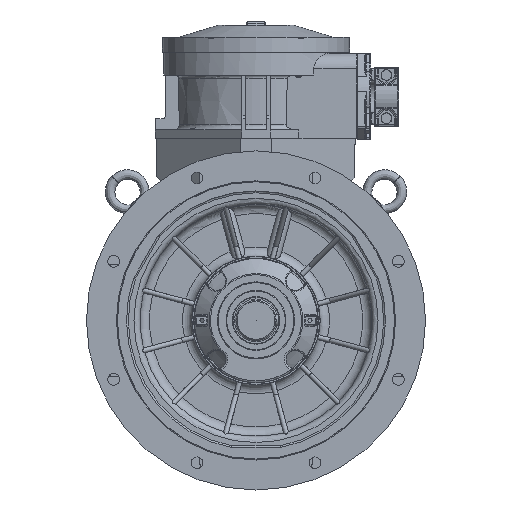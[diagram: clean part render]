
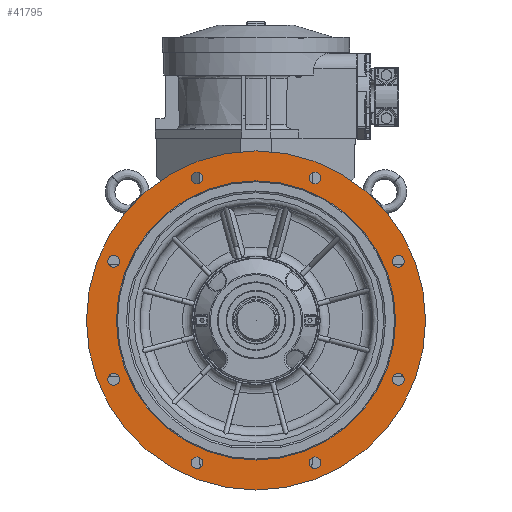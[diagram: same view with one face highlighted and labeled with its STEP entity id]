
A CAD part, left-side view. The second image highlights one B-rep face of the part: STEP entity #41795.
In plain terms, the highlighted planar face has unit normal (-1, 0, 0).
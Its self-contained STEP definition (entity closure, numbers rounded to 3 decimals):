
#1120=PLANE('',#44513);
#13565=ORIENTED_EDGE('',*,*,#18961,.F.);
#13566=ORIENTED_EDGE('',*,*,#18963,.F.);
#13567=ORIENTED_EDGE('',*,*,#18965,.F.);
#13568=ORIENTED_EDGE('',*,*,#18967,.F.);
#13569=ORIENTED_EDGE('',*,*,#18969,.F.);
#13570=ORIENTED_EDGE('',*,*,#18971,.F.);
#13571=ORIENTED_EDGE('',*,*,#18973,.F.);
#13572=ORIENTED_EDGE('',*,*,#18975,.F.);
#13573=ORIENTED_EDGE('',*,*,#18992,.T.);
#13574=ORIENTED_EDGE('',*,*,#18993,.F.);
#18961=EDGE_CURVE('',#22119,#22119,#23659,.T.);
#18963=EDGE_CURVE('',#22121,#22121,#23661,.T.);
#18965=EDGE_CURVE('',#22123,#22123,#23663,.T.);
#18967=EDGE_CURVE('',#22125,#22125,#23665,.T.);
#18969=EDGE_CURVE('',#22127,#22127,#23667,.T.);
#18971=EDGE_CURVE('',#22129,#22129,#23669,.T.);
#18973=EDGE_CURVE('',#22131,#22131,#23671,.T.);
#18975=EDGE_CURVE('',#22133,#22133,#23673,.T.);
#18992=EDGE_CURVE('',#22150,#22150,#23687,.T.);
#18993=EDGE_CURVE('',#22151,#22151,#23688,.F.);
#22119=VERTEX_POINT('',#65462);
#22121=VERTEX_POINT('',#65467);
#22123=VERTEX_POINT('',#65472);
#22125=VERTEX_POINT('',#65477);
#22127=VERTEX_POINT('',#65482);
#22129=VERTEX_POINT('',#65487);
#22131=VERTEX_POINT('',#65492);
#22133=VERTEX_POINT('',#65497);
#22150=VERTEX_POINT('',#65535);
#22151=VERTEX_POINT('',#65537);
#23659=CIRCLE('',#44475,9.5);
#23661=CIRCLE('',#44478,9.5);
#23663=CIRCLE('',#44481,9.5);
#23665=CIRCLE('',#44484,9.5);
#23667=CIRCLE('',#44487,9.5);
#23669=CIRCLE('',#44490,9.5);
#23671=CIRCLE('',#44493,9.5);
#23673=CIRCLE('',#44496,9.5);
#23687=CIRCLE('',#44514,226.4);
#23688=CIRCLE('',#44515,275.);
#25374=EDGE_LOOP('',(#13565));
#25375=EDGE_LOOP('',(#13566));
#25376=EDGE_LOOP('',(#13567));
#25377=EDGE_LOOP('',(#13568));
#25378=EDGE_LOOP('',(#13569));
#25379=EDGE_LOOP('',(#13570));
#25380=EDGE_LOOP('',(#13571));
#25381=EDGE_LOOP('',(#13572));
#25382=EDGE_LOOP('',(#13573));
#25383=EDGE_LOOP('',(#13574));
#27314=FACE_BOUND('',#25374,.T.);
#27315=FACE_BOUND('',#25375,.T.);
#27316=FACE_BOUND('',#25376,.T.);
#27317=FACE_BOUND('',#25377,.T.);
#27318=FACE_BOUND('',#25378,.T.);
#27319=FACE_BOUND('',#25379,.T.);
#27320=FACE_BOUND('',#25380,.T.);
#27321=FACE_BOUND('',#25381,.T.);
#27322=FACE_BOUND('',#25382,.T.);
#27323=FACE_BOUND('',#25383,.T.);
#41795=ADVANCED_FACE('',(#27314,#27315,#27316,#27317,#27318,#27319,#27320,
#27321,#27322,#27323),#1120,.T.);
#44475=AXIS2_PLACEMENT_3D('',#65461,#51554,#51555);
#44478=AXIS2_PLACEMENT_3D('',#65466,#51560,#51561);
#44481=AXIS2_PLACEMENT_3D('',#65471,#51566,#51567);
#44484=AXIS2_PLACEMENT_3D('',#65476,#51572,#51573);
#44487=AXIS2_PLACEMENT_3D('',#65481,#51578,#51579);
#44490=AXIS2_PLACEMENT_3D('',#65486,#51584,#51585);
#44493=AXIS2_PLACEMENT_3D('',#65491,#51590,#51591);
#44496=AXIS2_PLACEMENT_3D('',#65496,#51596,#51597);
#44513=AXIS2_PLACEMENT_3D('',#65533,#51633,#51634);
#44514=AXIS2_PLACEMENT_3D('',#65534,#51635,#51636);
#44515=AXIS2_PLACEMENT_3D('',#65536,#51637,#51638);
#51554=DIRECTION('',(-1.,0.,0.));
#51555=DIRECTION('',(0.,-1.,0.));
#51560=DIRECTION('',(-1.,0.,0.));
#51561=DIRECTION('',(0.,-1.,0.));
#51566=DIRECTION('',(-1.,0.,0.));
#51567=DIRECTION('',(0.,-1.,0.));
#51572=DIRECTION('',(-1.,0.,0.));
#51573=DIRECTION('',(0.,-1.,0.));
#51578=DIRECTION('',(-1.,0.,0.));
#51579=DIRECTION('',(0.,-1.,0.));
#51584=DIRECTION('',(-1.,0.,0.));
#51585=DIRECTION('',(0.,-1.,0.));
#51590=DIRECTION('',(-1.,0.,0.));
#51591=DIRECTION('',(0.,-1.,0.));
#51596=DIRECTION('',(-1.,0.,0.));
#51597=DIRECTION('',(0.,-1.,0.));
#51633=DIRECTION('',(-1.,0.,0.));
#51634=DIRECTION('',(0.,0.,1.));
#51635=DIRECTION('',(1.,0.,0.));
#51636=DIRECTION('',(0.,0.,-1.));
#51637=DIRECTION('',(-1.,0.,0.));
#51638=DIRECTION('',(0.,0.,1.));
#65461=CARTESIAN_POINT('',(-90.,-230.97,95.671));
#65462=CARTESIAN_POINT('',(-90.,-240.47,95.671));
#65466=CARTESIAN_POINT('',(-90.,-230.97,-95.671));
#65467=CARTESIAN_POINT('',(-90.,-240.47,-95.671));
#65471=CARTESIAN_POINT('',(-90.,-95.671,-230.97));
#65472=CARTESIAN_POINT('',(-90.,-105.171,-230.97));
#65476=CARTESIAN_POINT('',(-90.,95.671,-230.97));
#65477=CARTESIAN_POINT('',(-90.,86.171,-230.97));
#65481=CARTESIAN_POINT('',(-90.,230.97,-95.671));
#65482=CARTESIAN_POINT('',(-90.,221.47,-95.671));
#65486=CARTESIAN_POINT('',(-90.,230.97,95.671));
#65487=CARTESIAN_POINT('',(-90.,221.47,95.671));
#65491=CARTESIAN_POINT('',(-90.,95.671,230.97));
#65492=CARTESIAN_POINT('',(-90.,86.171,230.97));
#65496=CARTESIAN_POINT('',(-90.,-95.671,230.97));
#65497=CARTESIAN_POINT('',(-90.,-105.171,230.97));
#65533=CARTESIAN_POINT('',(-90.,0.,-280.019));
#65534=CARTESIAN_POINT('',(-90.,0.,0.));
#65535=CARTESIAN_POINT('',(-90.,0.,-226.4));
#65536=CARTESIAN_POINT('',(-90.,0.,0.));
#65537=CARTESIAN_POINT('',(-90.,0.,275.));
